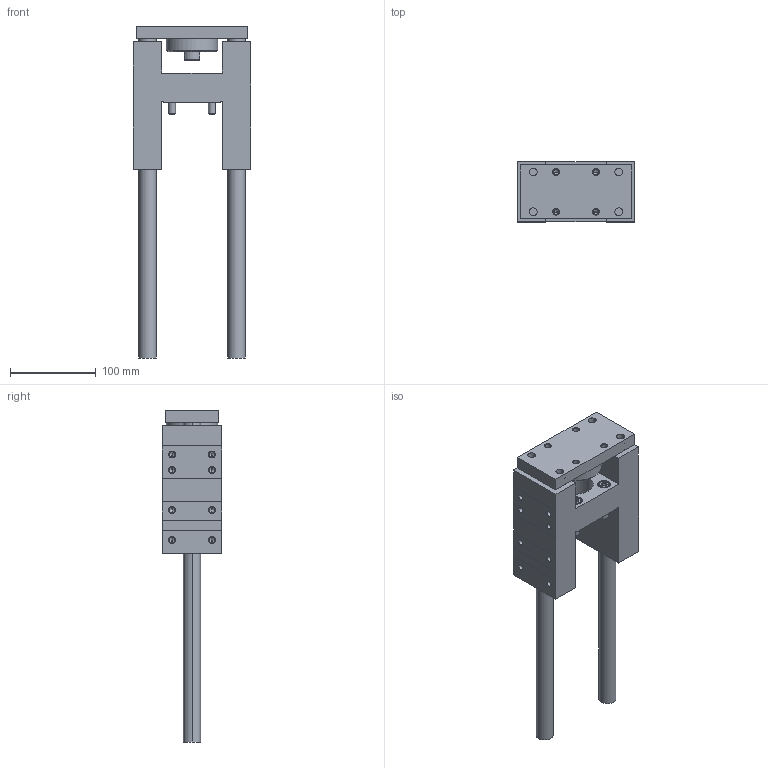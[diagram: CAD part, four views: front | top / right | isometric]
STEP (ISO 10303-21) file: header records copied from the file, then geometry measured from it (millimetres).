
FILE_DESCRIPTION (( 'STEP AP203' ), '1' );
FILE_NAME ('GB50-200.STEP', '2020-04-24T13:14:53', ( '' ), ( '' ), 'SwSTEP 2.0', 'SolidWorks 2019', '' );
FILE_SCHEMA (( 'CONFIG_CONTROL_DESIGN' ));
Length unit declared in the file: millimetre
Products named in the file (1): GB50-200
Bounding box: 137 x 70 x 388 mm (x, y, z)
Volume: 1102623 mm3; surface area: 193617.2 mm2
Topology: 6 solids, 6 shells, 377 faces, 852 edges, 480 vertices
Faces by surface type: cone 154, plane 117, cylinder 106
Entity records: 10863 total; most frequent: CARTESIAN_POINT 2350, DIRECTION 1902, ORIENTED_EDGE 1624, EDGE_CURVE 812, AXIS2_PLACEMENT_3D 744, VERTEX_POINT 480, EDGE_LOOP 440, LINE 414
